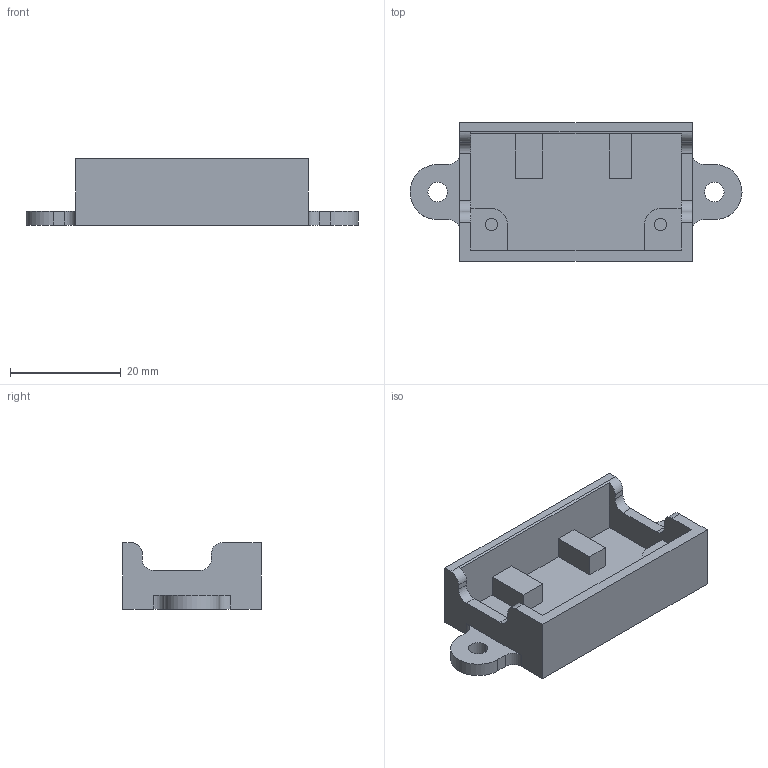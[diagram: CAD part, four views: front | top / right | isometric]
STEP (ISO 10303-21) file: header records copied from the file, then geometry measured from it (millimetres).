
FILE_DESCRIPTION(('CATIA V5 STEP Exchange'),'2;1');
FILE_NAME('X:\XDrive\---CAD---\--- 3D Drucker ---\K40\Spannungsregler_Gehaeuse.stp','2023-04-01T19:04:46+00:00',('none'),('none'),'CATIA Version 5 Release 19 SP 2 (IN-10)','CATIA V5 STEP AP203','none');
FILE_SCHEMA(('CONFIG_CONTROL_DESIGN'));
Length unit declared in the file: millimetre
Products named in the file (1): Spannungsregler_Gehaeuse
Bounding box: 60 x 25 x 12 mm (x, y, z)
Volume: 5353.5 mm3; surface area: 5256.7 mm2
Topology: 1 solids, 1 shells, 64 faces, 179 edges, 119 vertices
Faces by surface type: plane 40, cylinder 24
Entity records: 1987 total; most frequent: CARTESIAN_POINT 361, ORIENTED_EDGE 358, DIRECTION 269, EDGE_CURVE 179, VECTOR 129, LINE 129, VERTEX_POINT 119, AXIS2_PLACEMENT_3D 94
